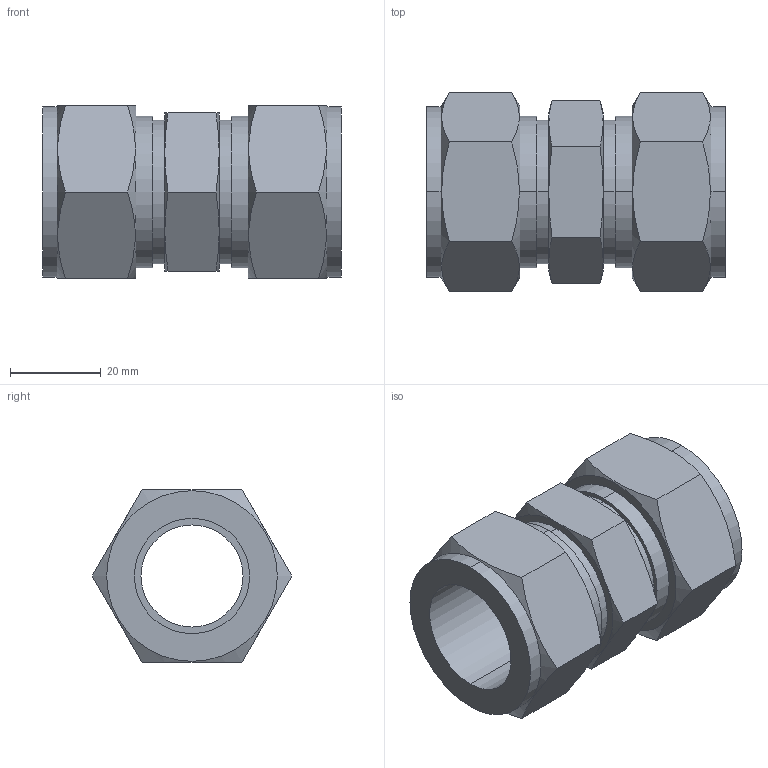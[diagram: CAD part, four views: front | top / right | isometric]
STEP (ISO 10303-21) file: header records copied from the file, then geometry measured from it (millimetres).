
FILE_DESCRIPTION (( 'STEP AP203' ), '1' );
FILE_NAME ('DUA16 SS.STEP', '2009-09-08T10:22:07', ( ' ' ), ( '' ), 'SwSTEP 2.0', 'SolidWorks 2008', '' );
FILE_SCHEMA (( 'CONFIG_CONTROL_DESIGN' ));
Length unit declared in the file: millimetre
Products named in the file (1): DUA16 SS
Bounding box: 65.9 x 43.99 x 38.1 mm (x, y, z)
Volume: 40670.4 mm3; surface area: 16202.3 mm2
Topology: 1 solids, 1 shells, 66 faces, 152 edges, 96 vertices
Faces by surface type: plane 28, cone 20, cylinder 18
Entity records: 2285 total; most frequent: CARTESIAN_POINT 771, ORIENTED_EDGE 304, DIRECTION 282, EDGE_CURVE 152, AXIS2_PLACEMENT_3D 119, VERTEX_POINT 96, EDGE_LOOP 76, ADVANCED_FACE 66
